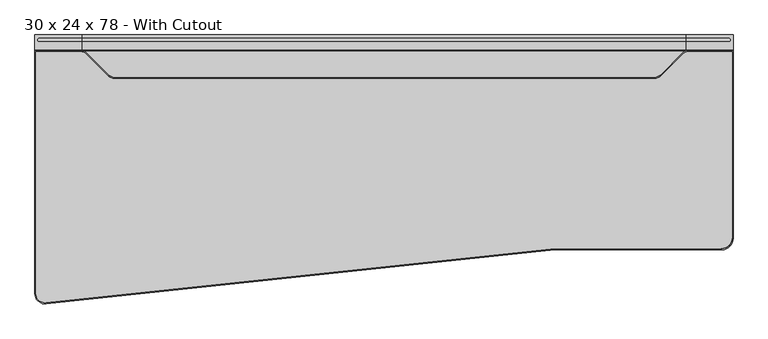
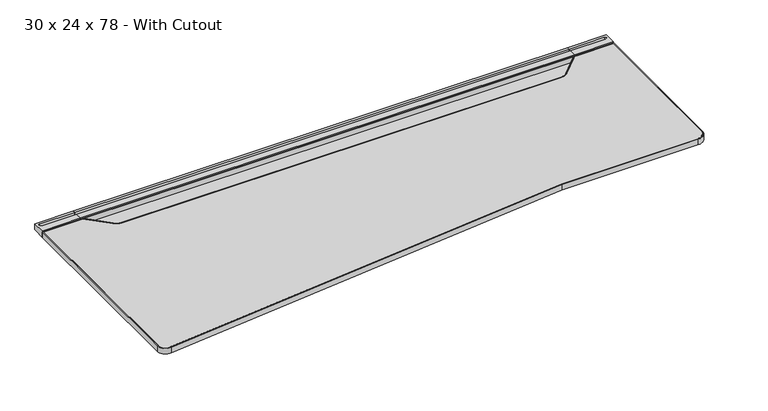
"""IFC4 building model written with IfcOpenShell, lengths in millimetres: furniture geometry, Steelcase - C Scape - Desking - Left Hand Transition - Non Sliding : 30 x 24 x 78 - With Cutout."""

from ifc_helpers import new_model, si_unit, point, frame, frame_2d, origin, place, context, project, spatial, polyline, circle_curve, trimmed, segment, composite_curve, outline, extrude, faceted_brep, source, transform, mapped, element, save
from ifc_brep_helpers import plane_surface, cylinder_surface, revolved_surface, advanced_brep


def furniture_30_x_24_x_78_with_cutout_a530a37b(model_context):
    return source(origin(), model_context, "Body", "SolidModel", [
        advanced_brep(
        [(-20.9677124, -45.3135132, 703.3768), (-20.9677124, -4.0331902, 703.3768), (-20.9677124, -3.2278472, 705.1038636), (-20.9677124, 0.0, 705.1038636), (-20.9677124, 0.0, 725.932), (-20.9677124, -8.5111084, 725.932), (-20.9677124, -8.5111084, 713.486), (-20.9677124, -19.3290527, 713.486), (-20.9677124, -19.3290527, 725.932), (-20.9677124, -42.7750923, 725.932), (-20.9677124, -42.7750923, 722.4268341), (-20.9677124, -45.3135132, 722.4268341), (-153.9875, -45.3135132, 703.3768), (-153.9875, -45.3135132, 722.4268341), (-153.9875, -42.7750923, 722.4268341), (-153.9875, -42.7750923, 725.932), (-153.9875, 0.0, 725.932), (-153.9875, 0.0, 705.1038636), (-153.9875, -3.2278472, 705.1038636), (-153.9875, -4.0331902, 703.3768), (-142.2254272, -19.3290527, 725.932), (-142.2254272, -8.5111084, 725.932), (-142.2254272, -8.5111084, 713.486), (-142.2254272, -19.3290527, 713.486)],
        [
            (0, 1),
            (1, 2),
            (2, 3),
            (3, 4),
            (4, 5),
            (5, 6),
            (6, 7),
            (7, 8),
            (8, 9),
            (9, 10),
            (10, 11),
            (11, 0),
            (12, 13),
            (13, 14),
            (14, 15),
            (15, 16),
            (16, 17),
            (17, 18),
            (18, 19),
            (19, 12),
            (0, 12),
            (19, 1),
            (18, 2),
            (17, 3),
            (16, 4),
            (15, 9),
            (8, 20),
            (20, 21, circle_curve(frame((-142.2254272, -13.9200806, 725.932), z_axis=(0.0, 0.0, -1.0), x_axis=(1.0, 0.0, 0.0)), 5.4089722)),
            (21, 5),
            (14, 10),
            (13, 11),
            (6, 22),
            (22, 23, circle_curve(frame((-142.2254272, -13.9200806, 713.486), z_axis=(0.0, 0.0, 1.0), x_axis=(1.0, 0.0, 0.0)), 5.4089722)),
            (23, 7),
            (21, 22),
            (20, 23),
        ],
        [
            plane_surface(frame((-20.9677124, -45.3135132, 703.3768), z_axis=(1.0, 0.0, 0.0), x_axis=(0.0, 1.0, 0.0))),
            plane_surface(frame((-153.9875, -45.3135132, 703.3768), z_axis=(-1.0, 0.0, 0.0), x_axis=(0.0, -1.0, 0.0))),
            plane_surface(frame((-20.9677124, -45.3135132, 703.3768), z_axis=(0.0, 0.0, -1.0), x_axis=(-1.0, 0.0, 0.0))),
            plane_surface(frame((-20.9677124, -4.0331902, 703.3768), z_axis=(0.0, 0.9063077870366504, -0.4226182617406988), x_axis=(-1.0, 0.0, 0.0))),
            plane_surface(frame((-20.9677124, -3.2278472, 705.1038636), z_axis=(0.0, 0.0, -1.0), x_axis=(-1.0, 0.0, 0.0))),
            plane_surface(frame((-20.9677124, 0.0, 705.1038636), z_axis=(0.0, 1.0, 0.0), x_axis=(-1.0, 0.0, 0.0))),
            plane_surface(frame((-20.9677124, 0.0, 725.932), z_axis=(0.0, 0.0, 1.0), x_axis=(-1.0, 0.0, 0.0))),
            plane_surface(frame((-20.9677124, -42.7750923, 725.932), z_axis=(0.0, -1.0, 0.0), x_axis=(-1.0, 0.0, 0.0))),
            plane_surface(frame((-20.9677124, -42.7750923, 722.4268341), z_axis=(0.0, 0.0, 1.0), x_axis=(-1.0, 0.0, 0.0))),
            plane_surface(frame((-20.9677124, -45.3135132, 722.4268341), z_axis=(0.0, -1.0, 0.0), x_axis=(-1.0, 0.0, 0.0))),
            plane_surface(frame((-142.2254272, -8.5111084, 713.486), z_axis=(0.0, 0.0, 1.0), x_axis=(1.0, 0.0, 0.0))),
            plane_surface(frame((-20.9677124, -8.5111084, 731.2180541), z_axis=(0.0, -1.0, 0.0), x_axis=(0.0, 0.0, -1.0))),
            revolved_surface(polyline([(-136.81645500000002, -13.9200806, 725.932), (-136.81645500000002, -13.9200806, 713.486)]), (-142.2254272, -13.9200806, 713.486), (0.0, 0.0, 1.0)),
            plane_surface(frame((-142.2254272, -19.3290527, 731.2180541), z_axis=(0.0, 1.0, 0.0), x_axis=(0.0, 0.0, -1.0))),
        ],
        [
            (0, [[1, 2, 3, 4, 5, 6, 7, 8, 9, 10, 11, 12]]),
            (1, [[13, 14, 15, 16, 17, 18, 19, 20]]),
            (2, [[-1, 21, -20, 22]]),
            (3, [[-2, -22, -19, 23]]),
            (4, [[-3, -23, -18, 24]]),
            (5, [[-4, -24, -17, 25]]),
            (6, [[-16, 26, -9, 27, 28, 29, -5, -25]]),
            (7, [[-10, -26, -15, 30]]),
            (8, [[-11, -30, -14, 31]]),
            (9, [[-12, -31, -13, -21]]),
            (10, [[32, 33, 34, -7]]),
            (11, [[-32, -6, -29, 35]]),
            (12, [[-33, -35, -28, 36]]),
            (13, [[-34, -36, -27, -8]]),
        ],
    ),
        faceted_brep([(-134.9367368, -565.0752923, 700.7093833), (-120.6616272, -565.0752923, 693.4200291), (-39.2224121, -565.0752923, 693.4200291), (-36.6018699, -565.0752923, 679.3263935), (-20.9677124, -565.0752923, 679.3263935), (-20.9677124, -565.0752923, 703.3768), (-134.9367368, -565.0752923, 703.3768), (-134.9367368, -4.0331902, 700.7093833), (-134.9367368, -4.0331902, 703.3768), (-20.9677124, -4.0331902, 703.3768), (-20.9677124, -4.0331902, 629.3866), (-27.3161653, -4.0331902, 629.3866), (-39.2224121, -4.0331902, 693.4200291), (-120.6616272, -4.0331902, 693.4200291), (-27.3161653, -364.1172546, 629.3866), (-34.4365949, -376.5599397, 667.6812472), (-20.9677124, -364.1172546, 629.3866), (-20.9677124, -376.5599397, 667.6812472)], [[[0, 1, 2, 3, 4, 5, 6]], [[7, 8, 9, 10, 11, 12, 13]], [[1, 0, 7, 13]], [[2, 1, 13, 12]], [[12, 11, 14, 15, 3, 2]], [[11, 10, 16, 14]], [[10, 9, 5, 4, 17, 16]], [[6, 5, 9, 8]], [[0, 6, 8, 7]], [[15, 17, 4, 3]], [[17, 15, 14, 16]]]),
        extrude(outline(composite_curve([segment(polyline([(-293.5216187, 657.3775839), (-559.0022133, 680.1371551)]), True, "CONTINUOUS"), segment(trimmed(circle_curve(frame_2d((-558.7581271, 682.9843154)), 2.8576039), [point((-559.0022133, 680.1371551))], [point((-561.5383043, 682.3236226))], False, "CARTESIAN"), True, "CONTINUOUS"), segment(polyline([(-561.5383043, 682.3236226), (-566.0887542, 701.4717905), (-557.8334441, 701.4717905), (-557.8334441, 703.3768), (-442.6683806, 703.3768), (-442.6683806, 696.3917953), (-318.2108611, 696.3917953), (-318.2108611, 703.3768), (-293.5216187, 703.3768), (-293.5216187, 657.3775839)]), True, "CONTINUOUS")], self_intersect=False)), frame((877.824, 0.0, 0.0), z_axis=(1.0, 0.0, 0.0), x_axis=(0.0, 1.0, 0.0)), (0.0, 0.0, 1.0), 73.152),
        advanced_brep(
        [(1694.1927124, -45.3135132, 703.3768), (1694.1927124, -45.3135132, 722.4268341), (1694.1927124, -42.7750923, 722.4268341), (1694.1927124, -42.7750923, 725.932), (1694.1927124, -19.3290527, 725.932), (1694.1927124, -19.3290527, 713.486), (1694.1927124, -8.5111084, 713.486), (1694.1927124, -8.5111084, 725.932), (1694.1927124, 0.0, 725.932), (1694.1927124, 0.0, 705.1038636), (1694.1927124, -3.2278472, 705.1038636), (1694.1927124, -4.0331902, 703.3768), (1827.2125, -45.3135132, 703.3768), (1827.2125, -4.0331902, 703.3768), (1827.2125, -3.2278472, 705.1038636), (1827.2125, 0.0, 705.1038636), (1827.2125, 0.0, 725.932), (1827.2125, -42.7750923, 725.932), (1827.2125, -42.7750923, 722.4268341), (1827.2125, -45.3135132, 722.4268341), (1815.4504272, -8.5111084, 725.932), (1815.4504272, -19.3290527, 725.932), (1815.4504272, -19.3290527, 713.486), (1815.4504272, -8.5111084, 713.486)],
        [
            (0, 1),
            (1, 2),
            (2, 3),
            (3, 4),
            (4, 5),
            (5, 6),
            (6, 7),
            (7, 8),
            (8, 9),
            (9, 10),
            (10, 11),
            (11, 0),
            (12, 13),
            (13, 14),
            (14, 15),
            (15, 16),
            (16, 17),
            (17, 18),
            (18, 19),
            (19, 12),
            (11, 13),
            (12, 0),
            (10, 14),
            (9, 15),
            (8, 16),
            (7, 20),
            (20, 21, circle_curve(frame((1815.4504272, -13.9200806, 725.932), z_axis=(0.0, 0.0, -1.0), x_axis=(-1.0, 0.0, 0.0)), 5.4089722)),
            (21, 4),
            (3, 17),
            (2, 18),
            (1, 19),
            (5, 22),
            (22, 23, circle_curve(frame((1815.4504272, -13.9200806, 713.486), z_axis=(0.0, 0.0, 1.0), x_axis=(-1.0, 0.0, 0.0)), 5.4089722)),
            (23, 6),
            (23, 20),
            (22, 21),
        ],
        [
            plane_surface(frame((1694.1927124, -45.3135132, 703.3768), z_axis=(-1.0, 0.0, 0.0), x_axis=(0.0, 1.0, 0.0))),
            plane_surface(frame((1827.2125, -45.3135132, 703.3768), z_axis=(1.0, 0.0, 0.0), x_axis=(0.0, -1.0, 0.0))),
            plane_surface(frame((1694.1927124, -45.3135132, 703.3768), z_axis=(0.0, 0.0, -1.0), x_axis=(1.0, 0.0, 0.0))),
            plane_surface(frame((1694.1927124, -4.0331902, 703.3768), z_axis=(0.0, 0.9063077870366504, -0.4226182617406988), x_axis=(1.0, 0.0, 0.0))),
            plane_surface(frame((1694.1927124, -3.2278472, 705.1038636), z_axis=(0.0, 0.0, -1.0), x_axis=(1.0, 0.0, 0.0))),
            plane_surface(frame((1694.1927124, 0.0, 705.1038636), z_axis=(0.0, 1.0, 0.0), x_axis=(1.0, 0.0, 0.0))),
            plane_surface(frame((1694.1927124, 0.0, 725.932), z_axis=(0.0, 0.0, 1.0), x_axis=(1.0, 0.0, 0.0))),
            plane_surface(frame((1694.1927124, -42.7750923, 725.932), z_axis=(0.0, -1.0, 0.0), x_axis=(1.0, 0.0, 0.0))),
            plane_surface(frame((1694.1927124, -42.7750923, 722.4268341), z_axis=(0.0, 0.0, 1.0), x_axis=(1.0, 0.0, 0.0))),
            plane_surface(frame((1694.1927124, -45.3135132, 722.4268341), z_axis=(0.0, -1.0, 0.0), x_axis=(1.0, 0.0, 0.0))),
            plane_surface(frame((1815.4504272, -8.5111084, 713.486), z_axis=(0.0, 0.0, 1.0), x_axis=(-1.0, 0.0, 0.0))),
            plane_surface(frame((1694.1927124, -8.5111084, 731.2180541), z_axis=(0.0, -1.0, 0.0), x_axis=(0.0, 0.0, -1.0))),
            revolved_surface(polyline([(1810.0414549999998, -13.9200806, 725.932), (1810.0414549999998, -13.9200806, 713.486)]), (1815.4504272, -13.9200806, 713.486), (0.0, 0.0, 1.0)),
            plane_surface(frame((1815.4504272, -19.3290527, 731.2180541), z_axis=(0.0, 1.0, 0.0), x_axis=(0.0, 0.0, -1.0))),
        ],
        [
            (0, [[1, 2, 3, 4, 5, 6, 7, 8, 9, 10, 11, 12]]),
            (1, [[13, 14, 15, 16, 17, 18, 19, 20]]),
            (2, [[21, -13, 22, -12]]),
            (3, [[23, -14, -21, -11]]),
            (4, [[24, -15, -23, -10]]),
            (5, [[25, -16, -24, -9]]),
            (6, [[-25, -8, 26, 27, 28, -4, 29, -17]]),
            (7, [[30, -18, -29, -3]]),
            (8, [[31, -19, -30, -2]]),
            (9, [[-22, -20, -31, -1]]),
            (10, [[-6, 32, 33, 34]]),
            (11, [[35, -26, -7, -34]]),
            (12, [[36, -27, -35, -33]]),
            (13, [[-5, -28, -36, -32]]),
        ],
    ),
        faceted_brep([(1808.1617368, -565.0752923, 700.7093833), (1808.1617368, -565.0752923, 703.3768), (1694.1927124, -565.0752923, 703.3768), (1694.1927124, -565.0752923, 679.3263935), (1709.8268699, -565.0752923, 679.3263935), (1712.4474121, -565.0752923, 693.4200291), (1793.8866272, -565.0752923, 693.4200291), (1808.1617368, -4.0331902, 700.7093833), (1793.8866272, -4.0331902, 693.4200291), (1712.4474121, -4.0331902, 693.4200291), (1700.5411653, -4.0331902, 629.3866), (1694.1927124, -4.0331902, 629.3866), (1694.1927124, -4.0331902, 703.3768), (1808.1617368, -4.0331902, 703.3768), (1707.6615949, -376.5599397, 667.6812472), (1700.5411653, -364.1172546, 629.3866), (1694.1927124, -364.1172546, 629.3866), (1694.1927124, -376.5599397, 667.6812472)], [[[0, 1, 2, 3, 4, 5, 6]], [[7, 8, 9, 10, 11, 12, 13]], [[6, 8, 7, 0]], [[5, 9, 8, 6]], [[9, 5, 4, 14, 15, 10]], [[10, 15, 16, 11]], [[11, 16, 17, 3, 2, 12]], [[1, 13, 12, 2]], [[0, 7, 13, 1]], [[14, 4, 3, 17]], [[17, 16, 15, 14]]]),
        extrude(outline(polyline([(-8.5111084, 725.932), (0.0, 725.932), (0.0, 705.1038636), (-3.2278472, 705.1038636), (-4.0331902, 703.3768), (-45.3135132, 703.3768), (-45.3135132, 722.4268341), (-42.7750923, 722.4268341), (-42.7750923, 725.932), (-19.3290527, 725.932), (-19.3290527, 713.486), (-8.5111084, 713.486), (-8.5111084, 725.932)])), frame((-20.9677124, 0.0, 0.0), z_axis=(1.0, 0.0, 0.0), x_axis=(0.0, 1.0, 0.0)), (0.0, 0.0, 1.0), 1715.1604248),
        extrude(outline(polyline([(1694.1927124, -4.0331902), (1694.1927124, -293.5216187), (-20.9677124, -293.5216187), (-20.9677124, -4.0331902), (1694.1927124, -4.0331902)])), frame((0.0, 0.0, 629.3866), z_axis=(0.0, 0.0, 1.0), x_axis=(1.0, 0.0, 0.0)), (0.0, 0.0, 1.0), 73.9902),
        extrude(outline(composite_curve([segment(polyline([(-150.9395, -48.3660689), (-21.5627392, -48.3660689)]), True, "CONTINUOUS"), segment(trimmed(circle_curve(frame_2d((-21.5627392, -64.9605938)), 16.5945249), [point((-21.5627392, -48.3660689))], [point((-9.8286419, -53.2264889))], False, "CARTESIAN"), True, "CONTINUOUS"), segment(polyline([(-9.8286419, -53.2264889), (50.2994608, -113.3545523)]), True, "CONTINUOUS"), segment(trimmed(circle_curve(frame_2d((77.2402204, -86.4137752)), 38.1), [point((50.2994608, -113.3545523))], [point((77.2402204, -124.5137752))], True, "CARTESIAN"), True, "CONTINUOUS"), segment(polyline([(77.2402204, -124.5137752), (1599.1598212, -124.5137752)]), True, "CONTINUOUS"), segment(trimmed(circle_curve(frame_2d((1599.1598212, -86.4137752)), 38.1), [point((1599.1598212, -124.5137752))], [point((1626.1005905, -113.3545426))], True, "CARTESIAN"), True, "CONTINUOUS"), segment(polyline([(1626.1005905, -113.3545426), (1687.7230199, -51.7321087)]), True, "CONTINUOUS"), segment(trimmed(circle_curve(frame_2d((1695.45, -58.9180007)), 10.5519318), [point((1687.7230199, -51.7321087))], [point((1695.45, -48.3660689))], False, "CARTESIAN"), True, "CONTINUOUS"), segment(polyline([(1695.45, -48.3660689), (1824.1645, -48.3660689), (1824.1645, -574.7990234)]), True, "CONTINUOUS"), segment(trimmed(circle_curve(frame_2d((1792.4145, -574.7990234)), 31.75), [point((1824.1645, -574.7990234))], [point((1792.4145, -606.5490234))], False, "CARTESIAN"), True, "CONTINUOUS"), segment(polyline([(1792.4145, -606.5490234), (1320.7997595, -606.5490234), (-122.5363432, -759.8823654)]), True, "CONTINUOUS"), segment(trimmed(circle_curve(frame_2d((-125.5395, -734.6605286)), 25.4), [point((-122.5363432, -759.8823654))], [point((-150.9395, -734.6605286))], False, "CARTESIAN"), True, "CONTINUOUS"), segment(polyline([(-150.9395, -734.6605286), (-150.9395, -48.3660689)]), True, "CONTINUOUS")], self_intersect=False)), frame((0.0, 0.0, 703.3768), z_axis=(0.0, 0.0, 1.0), x_axis=(1.0, 0.0, 0.0)), (0.0, 0.0, 1.0), 20.5232),
        advanced_brep(
        [(1824.1625156, -577.8497165, 703.3768), (1795.4632087, -606.5490234, 703.3768), (1795.4632087, -606.5490234, 723.9), (1824.1625156, -577.8497165, 723.9), (1827.2134922, -577.8497165, 723.9), (1795.4632087, -609.6, 723.9), (1795.4632087, -609.6, 703.3768), (1827.2134922, -577.8497165, 703.3768), (1824.1625156, -48.3666358, 723.9), (1824.1625156, -48.3666358, 703.3768), (1827.2134922, -45.3156593, 703.3768), (1827.2134922, -45.3156593, 723.9), (1695.45, -48.3666358, 723.9), (1695.45, -48.3666358, 703.3768), (1695.45, -45.3156593, 703.3768), (1695.45, -45.3156593, 723.9), (1687.7234351, -51.7324948, 703.3768), (1687.7234351, -51.7324948, 723.9), (1685.4892627, -49.6547721, 723.9), (1685.4892627, -49.6547721, 703.3768), (1624.9189809, -114.5369541, 723.9), (1624.9189809, -114.5369541, 703.3768), (1622.7616146, -112.3795879, 703.3768), (1622.7616146, -112.3795879, 723.9), (1600.8314365, -124.5143421, 703.3768), (1600.8314365, -124.5143421, 723.9), (1600.8314365, -121.4633656, 723.9), (1600.8314365, -121.4633656, 703.3768), (75.5685947, -124.5143421, 723.9), (75.5685947, -124.5143421, 703.3768), (75.5685947, -121.4633656, 703.3768), (75.5685947, -121.4633656, 723.9), (51.4810781, -114.5369706, 703.3768), (51.4810781, -114.5369706, 723.9), (53.6384436, -112.3796037, 723.9), (53.6384436, -112.3796037, 703.3768), (-11.2460683, -51.8098652, 723.9), (-11.2460683, -51.8098652, 703.3768), (-9.0887028, -49.6524983, 703.3768), (-9.0887028, -49.6524983, 723.9), (-20.9676827, -48.3666358, 703.3768), (-20.9676827, -48.3666358, 723.9), (-21.1183305, -45.3156593, 723.9), (-21.1183305, -45.3156593, 703.3768), (-150.938933, -48.3666358, 723.9), (-150.938933, -48.3666358, 703.3768), (-153.9899096, -45.3156593, 703.3768), (-153.9899096, -45.3156593, 723.9), (-150.938933, -734.6605286, 723.9), (-150.938933, -734.6605286, 703.3768), (-153.9899096, -734.6605286, 703.3768), (-153.9899096, -734.6605286, 723.9), (-122.5364102, -759.8818024, 703.3768), (-122.5364102, -759.8818024, 723.9), (-122.1756795, -762.9113785, 723.9), (-122.1756795, -762.9113785, 703.3768), (1320.9565739, -609.6, 723.9), (1320.7949678, -606.5490234, 723.9), (1320.7949678, -606.5490234, 703.3768), (1320.9565739, -609.6, 703.3768)],
        [
            (0, 1, circle_curve(frame((1795.4632087, -577.8497165, 703.3768), z_axis=(0.0, 0.0, -1.0), x_axis=(0.0, -1.0, 0.0)), 28.6993069)),
            (1, 2),
            (2, 3, circle_curve(frame((1795.4632087, -577.8497165, 723.9), z_axis=(0.0, 0.0, 1.0), x_axis=(0.0, -1.0, 0.0)), 28.6993069)),
            (3, 0),
            (4, 5, circle_curve(frame((1795.4632087, -577.8497165, 723.9), z_axis=(0.0, 0.0, -1.0), x_axis=(0.0, -1.0, 0.0)), 31.7502835)),
            (5, 6),
            (6, 7, circle_curve(frame((1795.4632087, -577.8497165, 703.3768), z_axis=(0.0, 0.0, 1.0), x_axis=(0.0, -1.0, 0.0)), 31.7502835)),
            (7, 4),
            (3, 8),
            (8, 9),
            (9, 0),
            (7, 10),
            (10, 11),
            (11, 4),
            (8, 12),
            (12, 13),
            (13, 9),
            (10, 14),
            (14, 15),
            (15, 11),
            (16, 13, circle_curve(frame((1695.45, -58.9180007, 703.3768), z_axis=(0.0, 0.0, -1.0), x_axis=(0.0, 1.0, 0.0)), 10.5513648)),
            (12, 17, circle_curve(frame((1695.45, -58.9180007, 723.9), z_axis=(0.0, 0.0, 1.0), x_axis=(0.0, 1.0, 0.0)), 10.5513648)),
            (17, 16),
            (18, 15, circle_curve(frame((1695.45, -58.9180007, 723.9), z_axis=(0.0, 0.0, -1.0), x_axis=(0.0, 1.0, 0.0)), 13.6023414)),
            (14, 19, circle_curve(frame((1695.45, -58.9180007, 703.3768), z_axis=(0.0, 0.0, 1.0), x_axis=(0.0, 1.0, 0.0)), 13.6023414)),
            (19, 18),
            (17, 20),
            (20, 21),
            (21, 16),
            (19, 22),
            (22, 23),
            (23, 18),
            (24, 21, circle_curve(frame((1600.8314365, -90.4494114, 703.3768), z_axis=(0.0, 0.0, 1.0), x_axis=(0.7071068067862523, -0.7071067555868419, 0.0)), 34.0649308)),
            (20, 25, circle_curve(frame((1600.8314365, -90.4494114, 723.9), z_axis=(0.0, 0.0, -1.0), x_axis=(0.7071068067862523, -0.7071067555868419, 0.0)), 34.0649308)),
            (25, 24),
            (26, 23, circle_curve(frame((1600.8314365, -90.4494114, 723.9), z_axis=(0.0, 0.0, 1.0), x_axis=(0.7071068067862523, -0.7071067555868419, 0.0)), 31.0139542)),
            (22, 27, circle_curve(frame((1600.8314365, -90.4494114, 703.3768), z_axis=(0.0, 0.0, -1.0), x_axis=(0.7071068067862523, -0.7071067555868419, 0.0)), 31.0139542)),
            (27, 26),
            (25, 28),
            (28, 29),
            (29, 24),
            (27, 30),
            (30, 31),
            (31, 26),
            (32, 29, circle_curve(frame((75.5685947, -90.4494383, 703.3768), z_axis=(0.0, 0.0, 1.0), x_axis=(0.0, -1.0, 0.0)), 34.0649039)),
            (28, 33, circle_curve(frame((75.5685947, -90.4494383, 723.9), z_axis=(0.0, 0.0, -1.0), x_axis=(0.0, -1.0, 0.0)), 34.0649039)),
            (33, 32),
            (34, 31, circle_curve(frame((75.5685947, -90.4494383, 723.9), z_axis=(0.0, 0.0, 1.0), x_axis=(0.0, -1.0, 0.0)), 31.0139273)),
            (30, 35, circle_curve(frame((75.5685947, -90.4494383, 703.3768), z_axis=(0.0, 0.0, -1.0), x_axis=(0.0, -1.0, 0.0)), 31.0139273)),
            (35, 34),
            (33, 36),
            (36, 37),
            (37, 32),
            (35, 38),
            (38, 39),
            (39, 34),
            (40, 37, circle_curve(frame((-19.7168496, -60.280652, 703.3768), z_axis=(0.0, 0.0, -1.0), x_axis=(0.7071065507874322, 0.7071070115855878, 0.0)), 11.9794977)),
            (36, 41, circle_curve(frame((-19.7168496, -60.280652, 723.9), z_axis=(0.0, 0.0, 1.0), x_axis=(0.7071065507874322, 0.7071070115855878, 0.0)), 11.9794977)),
            (41, 40),
            (42, 39, circle_curve(frame((-19.7168496, -60.280652, 723.9), z_axis=(0.0, 0.0, -1.0), x_axis=(0.7071065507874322, 0.7071070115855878, 0.0)), 15.0304743)),
            (38, 43, circle_curve(frame((-19.7168496, -60.280652, 703.3768), z_axis=(0.0, 0.0, 1.0), x_axis=(0.7071065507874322, 0.7071070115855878, 0.0)), 15.0304743)),
            (43, 42),
            (41, 44),
            (44, 45),
            (45, 40),
            (43, 46),
            (46, 47),
            (47, 42),
            (44, 48),
            (48, 49),
            (49, 45),
            (46, 50),
            (50, 51),
            (51, 47),
            (52, 49, circle_curve(frame((-125.5395, -734.6605286, 703.3768), z_axis=(0.0, 0.0, -1.0), x_axis=(-1.0, 0.0, 0.0)), 25.399433)),
            (48, 53, circle_curve(frame((-125.5395, -734.6605286, 723.9), z_axis=(0.0, 0.0, 1.0), x_axis=(-1.0, 0.0, 0.0)), 25.399433)),
            (53, 52),
            (54, 51, circle_curve(frame((-125.5395, -734.6605286, 723.9), z_axis=(0.0, 0.0, -1.0), x_axis=(-1.0, 0.0, 0.0)), 28.4504096)),
            (50, 55, circle_curve(frame((-125.5395, -734.6605286, 703.3768), z_axis=(0.0, 0.0, 1.0), x_axis=(-1.0, 0.0, 0.0)), 28.4504096)),
            (55, 54),
            (54, 56),
            (56, 5),
            (57, 53),
            (2, 57),
            (57, 58),
            (58, 52),
            (59, 55),
            (6, 59),
            (58, 1),
            (59, 56),
        ],
        [
            revolved_surface(polyline([(1795.4632087, -606.5490234, 723.9), (1795.4632087, -606.5490234, 703.3768)]), (1795.4632087, -577.8497165, 0.0), (0.0, 0.0, 1.0)),
            cylinder_surface(frame((1795.4632087, -577.8497165, 0.0), z_axis=(0.0, 0.0, 1.0), x_axis=(0.0, -1.0, 0.0)), 31.7502835),
            plane_surface(frame((1824.1625156, -577.8497165, 723.9), z_axis=(-1.0, 0.0, 0.0), x_axis=(0.0, 1.0, 0.0))),
            plane_surface(frame((1827.2134922, -577.8497165, 703.3768), z_axis=(1.0, 0.0, 0.0), x_axis=(0.0, 1.0, 0.0))),
            plane_surface(frame((1824.1625156, -48.3666358, 723.9), z_axis=(0.0, -1.0, 0.0), x_axis=(-1.0, 0.0, 0.0))),
            plane_surface(frame((1827.2134922, -45.3156593, 703.3768), z_axis=(0.0, 1.0, 0.0), x_axis=(-1.0, 0.0, 0.0))),
            revolved_surface(polyline([(1695.45, -48.3666359, 723.9), (1695.45, -48.3666359, 703.3768)]), (1695.45, -58.9180007, 0.0), (0.0, 0.0, 1.0)),
            cylinder_surface(frame((1695.45, -58.9180007, 0.0), z_axis=(0.0, 0.0, 1.0), x_axis=(0.0, 1.0, 0.0)), 13.6023414),
            plane_surface(frame((1687.7234354, -51.7324951, 723.9), z_axis=(0.7071068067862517, -0.7071067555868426, 0.0), x_axis=(-0.7071067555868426, -0.7071068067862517, 0.0))),
            plane_surface(frame((1685.4877928, -49.6534052, 703.3768), z_axis=(-0.7071068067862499, 0.7071067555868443, 0.0), x_axis=(-0.7071067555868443, -0.7071068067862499, 0.0))),
            cylinder_surface(frame((1600.8314365, -90.4494114, 0.0), z_axis=(0.0, 0.0, -1.0), x_axis=(0.7071068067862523, -0.7071067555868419, 0.0)), 34.0649308),
            revolved_surface(polyline([(1622.7616146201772, -112.37958793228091, 703.3768), (1622.7616146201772, -112.37958793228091, 723.9)]), (1600.8314365, -90.4494114, 0.0), (0.0, 0.0, -1.0)),
            plane_surface(frame((1600.8314365, -124.5143421, 723.9), z_axis=(0.0, -1.0, 0.0), x_axis=(-1.0, 0.0, 0.0))),
            plane_surface(frame((1600.8314365, -121.4633656, 703.3768), z_axis=(0.0, 1.0, 0.0), x_axis=(-1.0, 0.0, 0.0))),
            cylinder_surface(frame((75.5685947, -90.4494383, 0.0), z_axis=(0.0, 0.0, -1.0), x_axis=(0.0, -1.0, 0.0)), 34.0649039),
            revolved_surface(polyline([(75.5685947, -121.4633656, 703.3768), (75.5685947, -121.4633656, 723.9)]), (75.5685947, -90.4494383, 0.0), (0.0, 0.0, -1.0)),
            plane_surface(frame((51.4810781, -114.5369706, 723.9), z_axis=(-0.7071065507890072, -0.7071070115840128, 0.0), x_axis=(-0.7071070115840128, 0.7071065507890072, 0.0))),
            plane_surface(frame((53.6384436, -112.3796037, 703.3768), z_axis=(0.7071065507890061, 0.707107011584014, 0.0), x_axis=(-0.707107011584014, 0.7071065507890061, 0.0))),
            revolved_surface(polyline([(-11.246068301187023, -51.80986518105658, 723.9), (-11.246068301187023, -51.80986518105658, 703.3768)]), (-19.7168496, -60.280652, 0.0), (0.0, 0.0, 1.0)),
            cylinder_surface(frame((-19.7168496, -60.280652, 0.0), z_axis=(0.0, 0.0, 1.0), x_axis=(0.7071065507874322, 0.7071070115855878, 0.0)), 15.0304743),
            plane_surface(frame((-20.9676827, -48.3666358, 723.9), z_axis=(0.0, -1.0, 0.0), x_axis=(-1.0, 0.0, 0.0))),
            plane_surface(frame((-21.1183305, -45.3156593, 703.3768), z_axis=(0.0, 1.0, 0.0), x_axis=(-1.0, 0.0, 0.0))),
            plane_surface(frame((-150.938933, -48.3666358, 723.9), z_axis=(1.0, 0.0, 0.0), x_axis=(0.0, -1.0, 0.0))),
            plane_surface(frame((-153.9899096, -45.3156593, 703.3768), z_axis=(-1.0, 0.0, 0.0), x_axis=(0.0, -1.0, 0.0))),
            revolved_surface(polyline([(-150.938933, -734.6605286, 723.9), (-150.938933, -734.6605286, 703.3768)]), (-125.5395, -734.6605286, 0.0), (0.0, 0.0, 1.0)),
            cylinder_surface(frame((-125.5395, -734.6605286, 0.0), z_axis=(0.0, 0.0, 1.0), x_axis=(-1.0, 0.0, 0.0)), 28.4504096),
            plane_surface(frame((-122.1756505, -762.9116218, 723.9), z_axis=(0.0, 0.0, 1.0), x_axis=(0.9944043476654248, 0.10564086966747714, 0.0))),
            plane_surface(frame((-122.5364102, -759.8818024, 723.9), z_axis=(-0.10564086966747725, 0.9944043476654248, 0.0), x_axis=(0.9944043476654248, 0.10564086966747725, 0.0))),
            plane_surface(frame((-122.5364102, -759.8818024, 703.3768), z_axis=(0.0, 0.0, -1.0), x_axis=(0.9944043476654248, 0.10564086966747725, 0.0))),
            plane_surface(frame((-122.1756505, -762.9116218, 703.3768), z_axis=(0.10564086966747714, -0.9944043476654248, 0.0), x_axis=(0.9944043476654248, 0.10564086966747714, 0.0))),
            plane_surface(frame((1320.7949678, -606.5490234, 723.9), z_axis=(0.0, 1.0, 0.0), x_axis=(1.0, 0.0, 0.0))),
            plane_surface(frame((1320.9565739, -609.6, 703.3768), z_axis=(0.0, -1.0, 0.0), x_axis=(1.0, 0.0, 0.0))),
        ],
        [
            (0, [[1, 2, 3, 4]]),
            (1, [[5, 6, 7, 8]]),
            (2, [[-4, 9, 10, 11]]),
            (3, [[-8, 12, 13, 14]]),
            (4, [[-10, 15, 16, 17]]),
            (5, [[-13, 18, 19, 20]]),
            (6, [[21, -16, 22, 23]]),
            (7, [[24, -19, 25, 26]]),
            (8, [[-23, 27, 28, 29]]),
            (9, [[-26, 30, 31, 32]]),
            (10, [[33, -28, 34, 35]]),
            (11, [[36, -31, 37, 38]]),
            (12, [[-35, 39, 40, 41]]),
            (13, [[-38, 42, 43, 44]]),
            (14, [[45, -40, 46, 47]]),
            (15, [[48, -43, 49, 50]]),
            (16, [[-47, 51, 52, 53]]),
            (17, [[-50, 54, 55, 56]]),
            (18, [[57, -52, 58, 59]]),
            (19, [[60, -55, 61, 62]]),
            (20, [[-59, 63, 64, 65]]),
            (21, [[-62, 66, 67, 68]]),
            (22, [[-64, 69, 70, 71]]),
            (23, [[-67, 72, 73, 74]]),
            (24, [[75, -70, 76, 77]]),
            (25, [[78, -73, 79, 80]]),
            (26, [[-74, -78, 81, 82, -5, -14, -20, -24, -32, -36, -44, -48, -56, -60, -68], [83, -76, -69, -63, -58, -51, -46, -39, -34, -27, -22, -15, -9, -3, 84]]),
            (27, [[-77, -83, 85, 86]]),
            (28, [[87, -79, -72, -66, -61, -54, -49, -42, -37, -30, -25, -18, -12, -7, 88], [-71, -75, -86, 89, -1, -11, -17, -21, -29, -33, -41, -45, -53, -57, -65]]),
            (29, [[-80, -87, 90, -81]]),
            (30, [[-85, -84, -2, -89]]),
            (31, [[-90, -88, -6, -82]]),
        ],
    ),
    ])


if __name__ == "__main__":
    model = new_model("IFC4")
    model_context = context("Model", 3, world=origin())
    ifc_project = project(units=[si_unit("LENGTHUNIT", "METRE", prefix="MILLI")], contexts=[model_context])
    site = spatial("IfcSite", under=ifc_project)
    building = spatial("IfcBuilding", under=site)
    placement = place(None, origin())
    furniture_30_x_24_x_78_with_cutout_shape = furniture_30_x_24_x_78_with_cutout_a530a37b(model_context)
    element("IfcFurniture", 1, ObjectType="Steelcase - C Scape - Desking - Left Hand Transition - Non Sliding : 30 x 24 x 78 - With Cutout", at=placement, inside=building, context=model_context, shape_type="MappedRepresentation", body=[
        mapped(furniture_30_x_24_x_78_with_cutout_shape, transform((0.0, 0.0, 0.0), x_axis=(1.0, 0.0, 0.0), y_axis=(0.0, 1.0, 0.0), z_axis=(0.0, 0.0, 1.0))),
    ])
    save(model, "model.ifc")
